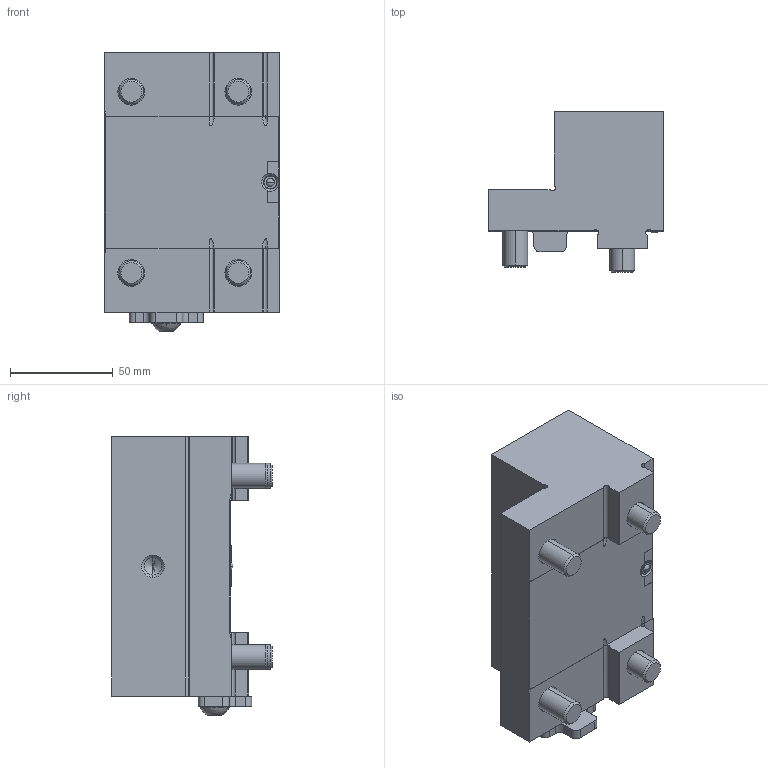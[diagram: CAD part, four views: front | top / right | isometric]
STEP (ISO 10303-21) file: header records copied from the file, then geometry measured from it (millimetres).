
FILE_DESCRIPTION (( 'STEP AP214' ), '1' );
FILE_NAME ('6921684012231.STEP', '2016-02-12T10:51:55', ( '' ), ( '' ), 'SwSTEP 2.0', 'SolidWorks 2015', '' );
FILE_SCHEMA (( 'AUTOMOTIVE_DESIGN' ));
Length unit declared in the file: millimetre
Products named in the file (6): 6921684012240; 8022508012000_ISO 7380 - M8 x 12 --- 12N; 6921684012231; 6921684030000; 8006101225050_<standard>; 8006101260050_DIN 912 M12 x 60 --- 36C
Assembly tree (7 placements, depth 2):
  6921684012231
    6921684012240
    8006101225050_<standard>  x2
    8006101260050_DIN 912 M12 x 60 --- 36C  x2
    6921684030000
    8022508012000_ISO 7380 - M8 x 12 --- 12N
Bounding box: 85 x 78 x 135.4 mm (x, y, z)
Volume: 478205.3 mm3; surface area: 68651.9 mm2
Topology: 8 solids, 8 shells, 271 faces, 643 edges, 392 vertices
Faces by surface type: plane 139, cylinder 68, cone 38, torus 22, sphere 4
Entity records: 6772 total; most frequent: CARTESIAN_POINT 1231, DIRECTION 1145, ORIENTED_EDGE 1034, EDGE_CURVE 517, AXIS2_PLACEMENT_3D 420, VERTEX_POINT 326, VECTOR 305, LINE 305
